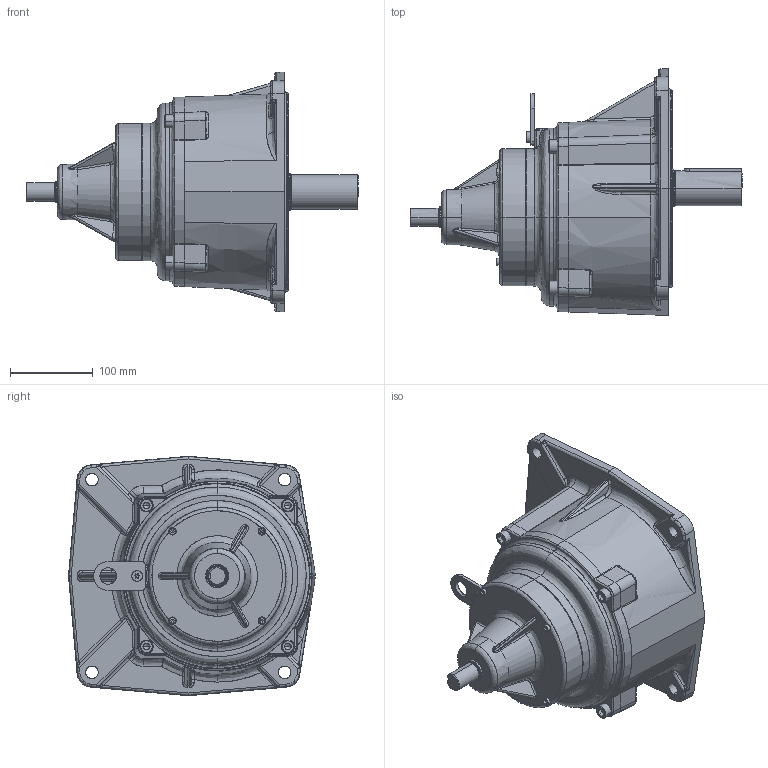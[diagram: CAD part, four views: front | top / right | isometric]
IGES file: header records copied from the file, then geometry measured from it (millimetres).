
Start section: SolidWorks IGES file using analytic representation for surfaces
Bounding box: 402 x 299 x 290 mm (x, y, z)
Surface area: 528915.3 mm2 (no closed solid volume)
Topology: 0 solids, 0 shells, 831 faces, 10248 edges, 10192 vertices
Faces by surface type: bspline 498, revolution 333
